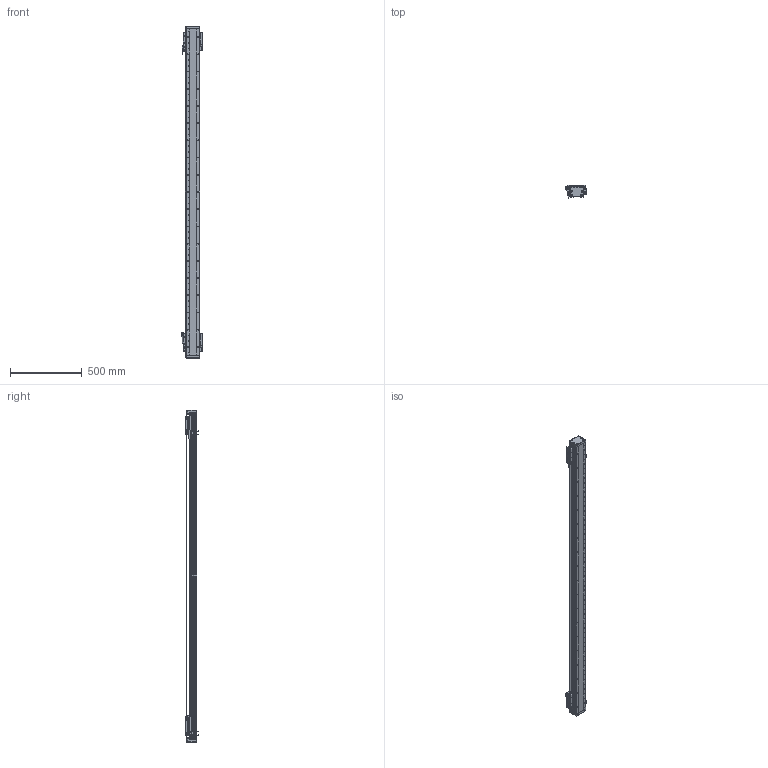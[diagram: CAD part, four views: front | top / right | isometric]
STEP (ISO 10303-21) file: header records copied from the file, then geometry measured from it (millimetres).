
FILE_DESCRIPTION (( 'STEP AP203' ), '1' );
FILE_NAME ('DA-B95-2-B15-T1940-C010-0.2 直线电机.STEP', '2023-05-06T06:34:59', ( '微软用户' ), ( '微软中国' ), 'SwSTEP 2.0', 'SolidWorks 2019', '' );
FILE_SCHEMA (( 'CONFIG_CONTROL_DESIGN' ));
Length unit declared in the file: millimetre
Products named in the file (34): 复件 六角薄螺母 M3^DA-A95-B15-T-C010-0.2-N 直线电机_GB_FASTENER_NUT_STNAB M3-C; 复件 复件 18252-0001-002-00 钢带垫块^DA-A95-B15-T-C010-0.2-N 直线电机; 葩璃 DA95-B15-DP-A-00 菜えA^66245-BU95-V 幗紩賑怢; 复件 66245-BU95-HT-V-01 滑动台板^66245-BU95-V-00 一体化滑动台板; DA-B95-2-B15-T1940-C010-0.2 眻盄萇儂; 葩璃 BKMA01-W060-TRL^DA-A95-B15-T-C010-0.2-N 眻盄萇儂; 复件 纯铜油杯 6x6mm^66245-BU95-V 滚珠滑台; 66245-BU95-V 幗紩賑怢; IU-BU95-L-00 菁釱_L2280; 复件 DKW-HXJ-JY-00 缓冲橡胶^DA-A95-B15-T-C010-0.2-N 直线电机; 复件 DA95-B15-YB-A-00 压板A^66245-BU95-V 滚珠滑台; 葩璃 BKM015-W060-C1-TP-DA-0.2^DA-A95-B15-T-C010-0.2-N 眻盄萇儂; IU-BU95-L 菁釱絳寢; 复件 复件 18252-0001-003-00 钢带拉块^DA-A95-B15-T-C010-0.2-N 直线电机; 复件 DA95-DK-00 挡块^66245-BU95-V 滚珠滑台; DA95-HXJ-00 缓冲橡胶^DA-A95-B15-T-C010-0.2-N 直线电机; LMDK-2-R001-V5-L02-C1-F00，0.2M 读数头^DA-A95-B15-T-C010-0.2-N 直线电机_DMA-010-0.2; 葩璃 DA95-B15-DP--B-00 菜えB^66245-BU95-V 幗紩賑怢; DA-A95-GYP-00 光电感应片^DA-A95-B15-T-C010-0.2-N 直线电机; 复件 DA95-MFP-01 密封片^66245-BU95-V 滚珠滑台; 葩璃 PM-Y45^DA-A95-B15-T-C010-0.2-N 眻盄萇儂; 复件 复件 18252-0001-004-00 钢带端盖^DA-A95-B15-T-C010-0.2-N 直线电机; 复件 DA95-HK-GT-00 滑块钢轨^66245-BU95-V-00 一体化滑动台板; 66245-BU95-V-00 珨极趙賑雄怢啣; PM-T45 光电开关^DA-A95-B15-T-C010-0.2-N 直线电机; 复件 DKW-GYP-ZJ-00 中间光电感应片^DA-A95-B15-T-C010-0.2-N 直线电机; 葩璃 DA95-GT-T-00^IU-BU95-L 菁釱絳寢_DA95; 复件 DA95-DB-00  挡板^66245-BU95-V 滚珠滑台; B15 XD-U-02L ｴﾅﾕ､ｳﾟ^DA-A95-B15-T-C010-0.2-N ﾖｱﾏﾟｵ扈銈XD-U-02L; 复件 DA95-B15 钢带盖板^DA-A95-B15-T-C010-0.2-N 直线电机; 复件 DKW-KGZ-ZJ-00 中间光电开关支架^DA-A95-B15-T-C010-0.2-N 直线电机; 复件 DA95-B15-YB-B-00 压板B^66245-BU95-V 滚珠滑台
Assembly tree (80 placements, depth 4):
  DA-B95-2-B15-T1940-C010-0.2 眻盄萇儂
    IU-BU95-L 菁釱絳寢
      IU-BU95-L-00 菁釱_L2280
      葩璃 DA95-GT-T-00^IU-BU95-L 菁釱絳寢_DA95  x2
    66245-BU95-V 幗紩賑怢
      66245-BU95-V-00 珨极趙賑雄怢啣
        复件 66245-BU95-HT-V-01 滑动台板^66245-BU95-V-00 一体化滑动台板
        复件 DA95-HK-GT-00 滑块钢轨^66245-BU95-V-00 一体化滑动台板  x2
      葩璃 DA95-B15-DP-A-00 菜えA^66245-BU95-V 幗紩賑怢
      复件 DA95-B15-YB-A-00 压板A^66245-BU95-V 滚珠滑台
      复件 DA95-B15-YB-B-00 压板B^66245-BU95-V 滚珠滑台
      复件 DA95-DB-00  挡板^66245-BU95-V 滚珠滑台  x4
      复件 DA95-DK-00 挡块^66245-BU95-V 滚珠滑台  x2
      复件 DA95-MFP-01 密封片^66245-BU95-V 滚珠滑台  x4
      复件 纯铜油杯 6x6mm^66245-BU95-V 滚珠滑台  x2
      葩璃 DA95-B15-DP--B-00 菜えB^66245-BU95-V 幗紩賑怢
    66245-BU95-V 幗紩賑怢
      66245-BU95-V-00 珨极趙賑雄怢啣
        复件 66245-BU95-HT-V-01 滑动台板^66245-BU95-V-00 一体化滑动台板
        复件 DA95-HK-GT-00 滑块钢轨^66245-BU95-V-00 一体化滑动台板  x2
      葩璃 DA95-B15-DP-A-00 菜えA^66245-BU95-V 幗紩賑怢
      复件 DA95-B15-YB-A-00 压板A^66245-BU95-V 滚珠滑台
      复件 DA95-B15-YB-B-00 压板B^66245-BU95-V 滚珠滑台
      复件 DA95-DB-00  挡板^66245-BU95-V 滚珠滑台  x4
      复件 DA95-DK-00 挡块^66245-BU95-V 滚珠滑台  x2
      复件 DA95-MFP-01 密封片^66245-BU95-V 滚珠滑台  x4
      复件 纯铜油杯 6x6mm^66245-BU95-V 滚珠滑台  x2
      葩璃 DA95-B15-DP--B-00 菜えB^66245-BU95-V 幗紩賑怢
    DA-A95-GYP-00 光电感应片^DA-A95-B15-T-C010-0.2-N 直线电机  x2
    LMDK-2-R001-V5-L02-C1-F00，0.2M 读数头^DA-A95-B15-T-C010-0.2-N 直线电机_DMA-010-0.2  x2
    复件 DKW-KGZ-ZJ-00 中间光电开关支架^DA-A95-B15-T-C010-0.2-N 直线电机
    葩璃 PM-Y45^DA-A95-B15-T-C010-0.2-N 眻盄萇儂
    复件 DKW-GYP-ZJ-00 中间光电感应片^DA-A95-B15-T-C010-0.2-N 直线电机
    葩璃 BKM015-W060-C1-TP-DA-0.2^DA-A95-B15-T-C010-0.2-N 眻盄萇儂  x2
    复件 DKW-HXJ-JY-00 缓冲橡胶^DA-A95-B15-T-C010-0.2-N 直线电机  x2
    PM-T45 光电开关^DA-A95-B15-T-C010-0.2-N 直线电机  x4
    B15 XD-U-02L ｴﾅﾕ､ｳﾟ^DA-A95-B15-T-C010-0.2-N ﾖｱﾏﾟｵ扈銈XD-U-02L
    复件 复件 18252-0001-003-00 钢带拉块^DA-A95-B15-T-C010-0.2-N 直线电机  x2
    复件 复件 18252-0001-002-00 钢带垫块^DA-A95-B15-T-C010-0.2-N 直线电机  x2
    复件 复件 18252-0001-004-00 钢带端盖^DA-A95-B15-T-C010-0.2-N 直线电机  x2
    复件 DA95-B15 钢带盖板^DA-A95-B15-T-C010-0.2-N 直线电机
    DA95-HXJ-00 缓冲橡胶^DA-A95-B15-T-C010-0.2-N 直线电机  x4
    葩璃 BKMA01-W060-TRL^DA-A95-B15-T-C010-0.2-N 眻盄萇儂
    复件 六角薄螺母 M3^DA-A95-B15-T-C010-0.2-N 直线电机_GB_FASTENER_NUT_STNAB M3-C  x6
Bounding box: 145.4 x 90.2 x 2316 mm (x, y, z)
Volume: 7647503.1 mm3; surface area: 2521601.3 mm2
Topology: 75 solids, 93 shells, 4100 faces, 11452 edges, 7247 vertices
Faces by surface type: cylinder 2077, plane 1491, cone 464, torus 64, sphere 4
Entity records: 96392 total; most frequent: CARTESIAN_POINT 24678, ORIENTED_EDGE 14262, DIRECTION 13916, EDGE_CURVE 7131, AXIS2_PLACEMENT_3D 5285, VERTEX_POINT 4649, VECTOR 3346, LINE 3346
